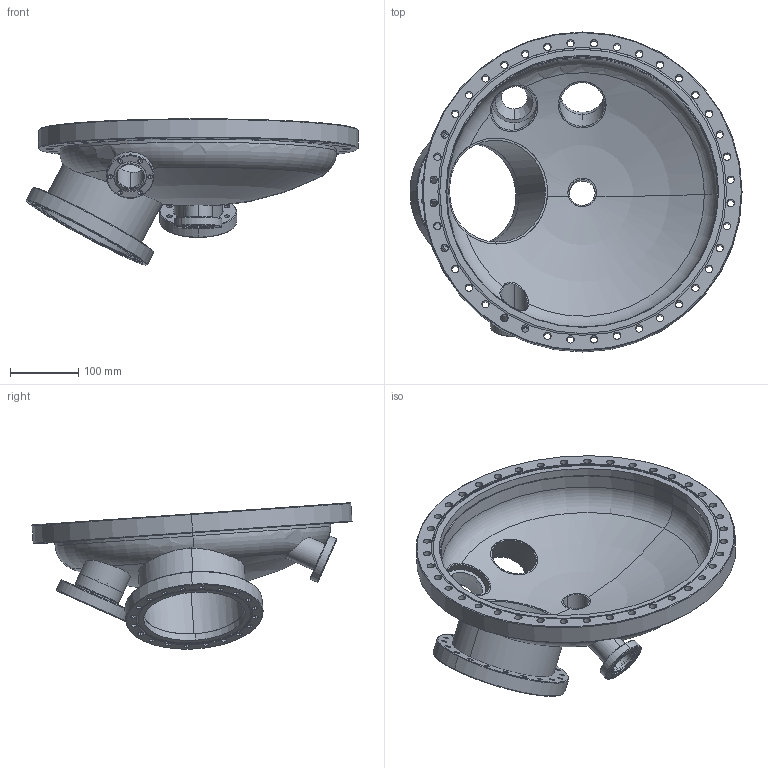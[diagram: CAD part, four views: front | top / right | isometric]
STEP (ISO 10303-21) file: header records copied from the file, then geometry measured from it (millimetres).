
FILE_DESCRIPTION((''),'2;1');
FILE_NAME('HAXPES_COPERCHIO01_ASM','2024-05-07T',('Davide'),(''),'PRO/ENGINEER BY PARAMETRIC TECHNOLOGY CORPORATION, 2012360','PRO/ENGINEER BY PARAMETRIC TECHNOLOGY CORPORATION, 2012360','');
FILE_SCHEMA(('AUTOMOTIVE_DESIGN { 1 0 10303 214 1 1 1 1 }'));
Length unit declared in the file: millimetre
Products named in the file (13): HAX3PES_CF400_PASS_COPIA01; HAX3PES_COPE400_02; CF_150_FISSA_156; HAX3PES_TUBO156_02_AF2; CF40_SPE-WBSTK; CF_40_ROT_42; HAX3PES_TUBO042_03_AF0; CF_63_ROTATABLE; HAX3PES_TUBO070_01_AF0; CF_40_FISSA_42; HAX3PES_TUBO042_01_AF0; HAX3PES_TUBO070_01_AF3; HAXPES_COPERCHIO01_ASM
Assembly tree (12 placements, depth 2):
  HAXPES_COPERCHIO01_ASM
    HAX3PES_CF400_PASS_COPIA01
    HAX3PES_COPE400_02
    CF_150_FISSA_156
    HAX3PES_TUBO156_02_AF2
    CF40_SPE-WBSTK
    CF_40_ROT_42
    HAX3PES_TUBO042_03_AF0
    CF_63_ROTATABLE
    HAX3PES_TUBO070_01_AF0
    CF_40_FISSA_42
    HAX3PES_TUBO042_01_AF0
    HAX3PES_TUBO070_01_AF3
Bounding box: 488.15 x 470.57 x 215.33 mm (x, y, z)
Volume: 2361998.2 mm3; surface area: 773706.4 mm2
Topology: 14 solids, 20 shells, 399 faces, 1002 edges, 638 vertices
Faces by surface type: cylinder 272, cone 64, plane 46, sphere 10, torus 7
Entity records: 15465 total; most frequent: CARTESIAN_POINT 3094, DIRECTION 2352, ORIENTED_EDGE 1980, AXIS2_PLACEMENT_3D 1008, EDGE_CURVE 990, VERTEX_POINT 638, EDGE_LOOP 602, CIRCLE 582
